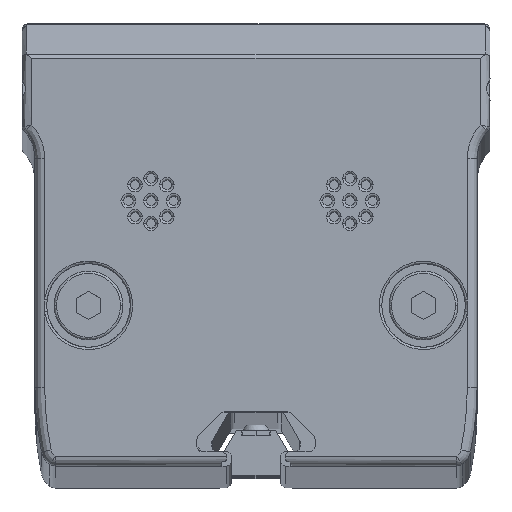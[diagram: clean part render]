
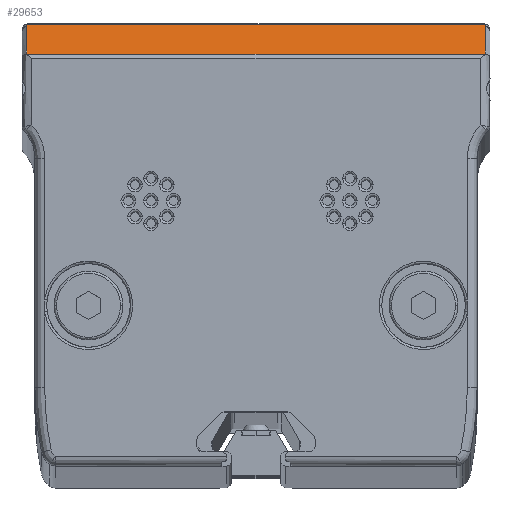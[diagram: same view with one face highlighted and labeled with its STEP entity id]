
A CAD part, top view. The second image highlights one B-rep face of the part: STEP entity #29653.
In plain terms, the highlighted planar face has unit normal (0, 0.858, 0.514).
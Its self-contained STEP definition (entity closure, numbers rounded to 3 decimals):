
#433 = CARTESIAN_POINT ( 'NONE',  ( 23.215, 22.429, 1254.914 ) ) ;
#1588 = VECTOR ( 'NONE', #23565, 1000. ) ;
#1953 = EDGE_CURVE ( 'NONE', #16832, #13503, #5973, .T. ) ;
#2099 = VERTEX_POINT ( 'NONE', #20025 ) ;
#2782 = CARTESIAN_POINT ( 'NONE',  ( 23.82, 19.433, 1259.907 ) ) ;
#2830 = DIRECTION ( 'NONE',  ( 0., -0.514, 0.857 ) ) ;
#2837 = VERTEX_POINT ( 'NONE', #26641 ) ;
#3257 = CARTESIAN_POINT ( 'NONE',  ( 23.274, 22.429, 1254.914 ) ) ;
#3730 = CARTESIAN_POINT ( 'NONE',  ( -23.315, 22.387, 1254.983 ) ) ;
#3836 = DIRECTION ( 'NONE',  ( 0., -0.857, -0.514 ) ) ;
#4445 = ORIENTED_EDGE ( 'NONE', *, *, #29570, .T. ) ;
#5390 = EDGE_LOOP ( 'NONE', ( #6375, #4445, #17966, #14631, #12090, #24802, #27894 ) ) ;
#5795 = LINE ( 'NONE', #26917, #14668 ) ;
#5973 =( BOUNDED_CURVE ( )  B_SPLINE_CURVE ( 3, ( #12611, #24386, #3730, #29046 ),
 .UNSPECIFIED., .F., .T. ) 
 B_SPLINE_CURVE_WITH_KNOTS ( ( 4, 4 ),
 ( 0., 1.571 ),
 .UNSPECIFIED. ) 
 CURVE ( )  GEOMETRIC_REPRESENTATION_ITEM ( )  RATIONAL_B_SPLINE_CURVE ( ( 1., 0.805, 0.805, 1. ) ) 
 REPRESENTATION_ITEM ( '' )  );
#6250 = DIRECTION ( 'NONE',  ( -1., 0., 0. ) ) ;
#6375 = ORIENTED_EDGE ( 'NONE', *, *, #15140, .T. ) ;
#7245 = EDGE_CURVE ( 'NONE', #13503, #25400, #11874, .T. ) ;
#7911 = CARTESIAN_POINT ( 'NONE',  ( 23.215, 22.429, 1254.914 ) ) ;
#8207 = FACE_OUTER_BOUND ( 'NONE', #5390, .T. ) ;
#10642 = CARTESIAN_POINT ( 'NONE',  ( -23.315, 19.433, 1259.907 ) ) ;
#10990 = AXIS2_PLACEMENT_3D ( 'NONE', #26299, #3836, #17409 ) ;
#11874 = LINE ( 'NONE', #13979, #12379 ) ;
#11881 = VERTEX_POINT ( 'NONE', #433 ) ;
#11980 =( BOUNDED_CURVE ( )  B_SPLINE_CURVE ( 3, ( #24495, #12732, #21778, #7911 ),
 .UNSPECIFIED., .F., .T. ) 
 B_SPLINE_CURVE_WITH_KNOTS ( ( 4, 4 ),
 ( 6.283, 6.283 ),
 .UNSPECIFIED. ) 
 CURVE ( )  GEOMETRIC_REPRESENTATION_ITEM ( )  RATIONAL_B_SPLINE_CURVE ( ( 1., 1., 1., 1. ) ) 
 REPRESENTATION_ITEM ( '' )  );
#12090 = ORIENTED_EDGE ( 'NONE', *, *, #22230, .T. ) ;
#12283 = DIRECTION ( 'NONE',  ( 0., 0.514, -0.857 ) ) ;
#12379 = VECTOR ( 'NONE', #2830, 1000. ) ;
#12611 = CARTESIAN_POINT ( 'NONE',  ( -23.215, 22.429, 1254.914 ) ) ;
#12732 = CARTESIAN_POINT ( 'NONE',  ( 23.215, 22.429, 1254.914 ) ) ;
#13503 = VERTEX_POINT ( 'NONE', #21191 ) ;
#13630 = CARTESIAN_POINT ( 'NONE',  ( -23.215, 22.429, 1254.914 ) ) ;
#13979 = CARTESIAN_POINT ( 'NONE',  ( -23.315, 19.287, 1260.15 ) ) ;
#14631 = ORIENTED_EDGE ( 'NONE', *, *, #14823, .T. ) ;
#14668 = VECTOR ( 'NONE', #6250, 1000. ) ;
#14823 = EDGE_CURVE ( 'NONE', #2837, #11881, #11980, .T. ) ;
#14848 = CARTESIAN_POINT ( 'NONE',  ( 23.315, 22.329, 1255.08 ) ) ;
#15140 = EDGE_CURVE ( 'NONE', #25400, #2099, #16480, .T. ) ;
#15815 = CARTESIAN_POINT ( 'NONE',  ( 23.315, 22.329, 1255.08 ) ) ;
#16480 = LINE ( 'NONE', #2782, #1588 ) ;
#16832 = VERTEX_POINT ( 'NONE', #13630 ) ;
#17409 = DIRECTION ( 'NONE',  ( 0., 0.514, -0.857 ) ) ;
#17966 = ORIENTED_EDGE ( 'NONE', *, *, #24127, .T. ) ;
#18167 =( BOUNDED_CURVE ( )  B_SPLINE_CURVE ( 3, ( #14848, #28874, #3257, #28727 ),
 .UNSPECIFIED., .F., .T. ) 
 B_SPLINE_CURVE_WITH_KNOTS ( ( 4, 4 ),
 ( 4.712, 6.283 ),
 .UNSPECIFIED. ) 
 CURVE ( )  GEOMETRIC_REPRESENTATION_ITEM ( )  RATIONAL_B_SPLINE_CURVE ( ( 1., 0.805, 0.805, 1. ) ) 
 REPRESENTATION_ITEM ( '' )  );
#19739 = VERTEX_POINT ( 'NONE', #15815 ) ;
#20025 = CARTESIAN_POINT ( 'NONE',  ( 23.315, 19.433, 1259.907 ) ) ;
#21191 = CARTESIAN_POINT ( 'NONE',  ( -23.315, 22.329, 1255.08 ) ) ;
#21778 = CARTESIAN_POINT ( 'NONE',  ( 23.215, 22.429, 1254.914 ) ) ;
#22230 = EDGE_CURVE ( 'NONE', #11881, #16832, #5795, .T. ) ;
#23456 = CARTESIAN_POINT ( 'NONE',  ( 23.315, 19.287, 1260.15 ) ) ;
#23565 = DIRECTION ( 'NONE',  ( 1., 0., 0. ) ) ;
#24127 = EDGE_CURVE ( 'NONE', #19739, #2837, #18167, .T. ) ;
#24386 = CARTESIAN_POINT ( 'NONE',  ( -23.274, 22.429, 1254.914 ) ) ;
#24434 = VECTOR ( 'NONE', #12283, 1000. ) ;
#24495 = CARTESIAN_POINT ( 'NONE',  ( 23.215, 22.429, 1254.914 ) ) ;
#24802 = ORIENTED_EDGE ( 'NONE', *, *, #1953, .T. ) ;
#25400 = VERTEX_POINT ( 'NONE', #10642 ) ;
#26299 = CARTESIAN_POINT ( 'NONE',  ( 23.82, 19.287, 1260.15 ) ) ;
#26641 = CARTESIAN_POINT ( 'NONE',  ( 23.215, 22.429, 1254.914 ) ) ;
#26917 = CARTESIAN_POINT ( 'NONE',  ( -23.215, 22.429, 1254.914 ) ) ;
#27894 = ORIENTED_EDGE ( 'NONE', *, *, #7245, .T. ) ;
#28122 = LINE ( 'NONE', #23456, #24434 ) ;
#28706 = PLANE ( 'NONE',  #10990 ) ;
#28727 = CARTESIAN_POINT ( 'NONE',  ( 23.215, 22.429, 1254.914 ) ) ;
#28874 = CARTESIAN_POINT ( 'NONE',  ( 23.315, 22.387, 1254.983 ) ) ;
#29046 = CARTESIAN_POINT ( 'NONE',  ( -23.315, 22.329, 1255.08 ) ) ;
#29570 = EDGE_CURVE ( 'NONE', #2099, #19739, #28122, .T. ) ;
#29653 = ADVANCED_FACE ( 'NONE', ( #8207 ), #28706, .F. ) ;
